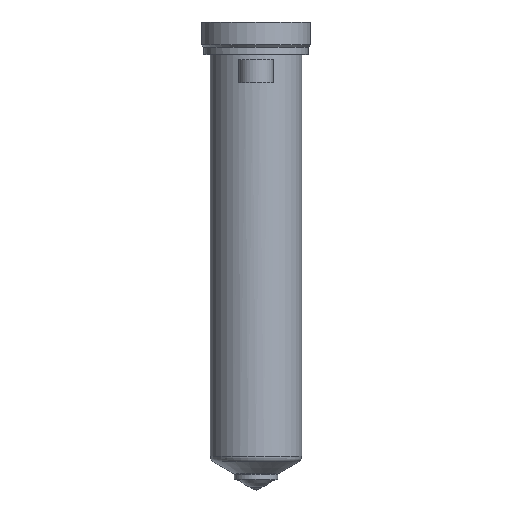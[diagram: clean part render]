
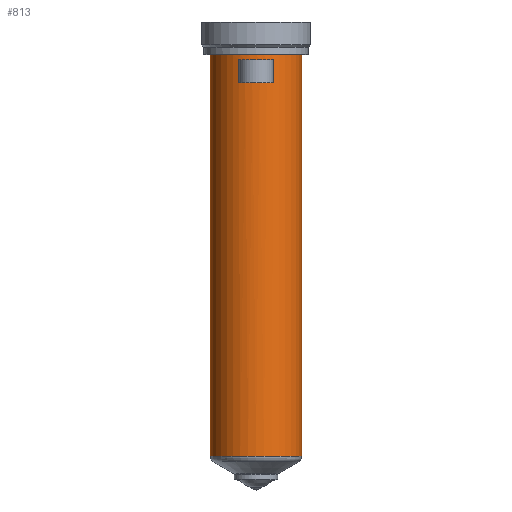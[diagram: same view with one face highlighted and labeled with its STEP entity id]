
A CAD part, top view. The second image highlights one B-rep face of the part: STEP entity #813.
In plain terms, the highlighted cylindrical face has radius 21 mm (diameter 42 mm), a partial arc.
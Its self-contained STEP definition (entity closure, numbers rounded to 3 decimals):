
#199=DIRECTION('',(0.,-1.,0.));
#200=VECTOR('',#199,184.528);
#201=CARTESIAN_POINT('',(21.,0.,0.));
#202=LINE('',#201,#200);
#203=CARTESIAN_POINT('',(0.,-184.528,0.));
#204=DIRECTION('',(0.,1.,0.));
#205=DIRECTION('',(-1.,0.,0.));
#206=AXIS2_PLACEMENT_3D('',#203,#204,#205);
#208=DIRECTION('',(0.,1.,0.));
#209=VECTOR('',#208,184.528);
#210=CARTESIAN_POINT('',(-21.,-184.528,0.));
#211=LINE('',#210,#209);
#212=CARTESIAN_POINT('',(0.,0.,0.));
#213=DIRECTION('',(0.,1.,0.));
#214=DIRECTION('',(-1.,0.,0.));
#215=AXIS2_PLACEMENT_3D('',#212,#213,#214);
#379=DIRECTION('',(0.,-1.,0.));
#380=VECTOR('',#379,10.5);
#381=CARTESIAN_POINT('',(-8.,-2.5,19.416));
#382=LINE('',#381,#380);
#383=CARTESIAN_POINT('',(0.,-13.,0.));
#384=DIRECTION('',(0.,1.,0.));
#385=DIRECTION('',(-0.381,0.,0.925));
#386=AXIS2_PLACEMENT_3D('',#383,#384,#385);
#409=CARTESIAN_POINT('',(0.,-2.5,0.));
#410=DIRECTION('',(0.,-1.,0.));
#411=DIRECTION('',(0.381,0.,0.925));
#412=AXIS2_PLACEMENT_3D('',#409,#410,#411);
#427=DIRECTION('',(0.,-1.,0.));
#428=VECTOR('',#427,10.5);
#429=CARTESIAN_POINT('',(8.,-2.5,19.416));
#430=LINE('',#429,#428);
#488=CARTESIAN_POINT('',(-21.,0.,0.));
#489=CARTESIAN_POINT('',(21.,0.,0.));
#490=VERTEX_POINT('',#488);
#491=VERTEX_POINT('',#489);
#500=CARTESIAN_POINT('',(-8.,-2.5,19.416));
#501=VERTEX_POINT('',#500);
#502=CARTESIAN_POINT('',(8.,-2.5,19.416));
#503=VERTEX_POINT('',#502);
#540=CARTESIAN_POINT('',(21.,-184.528,0.));
#541=VERTEX_POINT('',#540);
#550=CARTESIAN_POINT('',(-21.,-184.528,0.));
#551=VERTEX_POINT('',#550);
#572=CARTESIAN_POINT('',(-8.,-13.,19.416));
#573=CARTESIAN_POINT('',(8.,-13.,19.416));
#574=VERTEX_POINT('',#572);
#575=VERTEX_POINT('',#573);
#791=CARTESIAN_POINT('',(0.,16.4,0.));
#792=DIRECTION('',(0.,-1.,0.));
#793=DIRECTION('',(-1.,0.,0.));
#794=AXIS2_PLACEMENT_3D('',#791,#792,#793);
#795=CYLINDRICAL_SURFACE('',#794,21.);
#796=ORIENTED_EDGE('',*,*,#785,.T.);
#798=ORIENTED_EDGE('',*,*,#797,.F.);
#799=ORIENTED_EDGE('',*,*,#781,.T.);
#800=ORIENTED_EDGE('',*,*,#771,.T.);
#801=EDGE_LOOP('',(#796,#798,#799,#800));
#802=FACE_OUTER_BOUND('',#801,.F.);
#804=ORIENTED_EDGE('',*,*,#803,.T.);
#806=ORIENTED_EDGE('',*,*,#805,.T.);
#808=ORIENTED_EDGE('',*,*,#807,.F.);
#810=ORIENTED_EDGE('',*,*,#809,.T.);
#811=EDGE_LOOP('',(#804,#806,#808,#810));
#812=FACE_BOUND('',#811,.F.);
#813=ADVANCED_FACE('',(#802,#812),#795,.T.);
#207=CIRCLE('',#206,21.);
#216=CIRCLE('',#215,21.);
#387=CIRCLE('',#386,21.);
#413=CIRCLE('',#412,21.);
#771=EDGE_CURVE('',#490,#491,#216,.T.);
#781=EDGE_CURVE('',#551,#490,#211,.T.);
#785=EDGE_CURVE('',#491,#541,#202,.T.);
#797=EDGE_CURVE('',#551,#541,#207,.T.);
#803=EDGE_CURVE('',#501,#574,#382,.T.);
#805=EDGE_CURVE('',#574,#575,#387,.T.);
#807=EDGE_CURVE('',#503,#575,#430,.T.);
#809=EDGE_CURVE('',#503,#501,#413,.T.);
